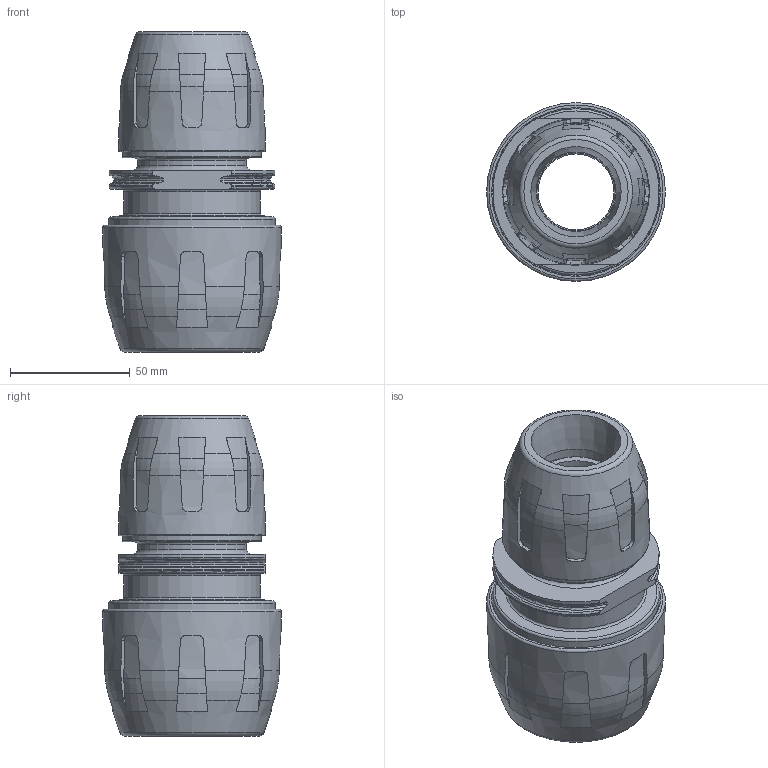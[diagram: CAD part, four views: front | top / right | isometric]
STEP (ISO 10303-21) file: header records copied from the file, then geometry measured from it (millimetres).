
FILE_DESCRIPTION( ( 'STEP AP214' ), '1' );
FILE_NAME( ' ', ' ', ( ' ' ), ( ' ' ), 'PSStep 11.0', 'VISI 17.0', ' ' );
FILE_SCHEMA( ( 'AUTOMOTIVE_DESIGN { 1 0 10303 214 1 1 1 1 }' ) );
Length unit declared in the file: millimetre
Products named in the file (3): 1; 2; 3
Bounding box: 74.56 x 74.56 x 133.77 mm (x, y, z)
Volume: 270422.3 mm3; surface area: 82085.6 mm2
Topology: 3 solids, 3 shells, 436 faces, 1222 edges, 808 vertices
Faces by surface type: plane 216, cone 96, cylinder 60, torus 32, bspline 32
Full cylindrical faces by diameter (mm): 31.7 x1, 32.7 x1, 33.44 x1, 40.7 x1, 40.9 x1, 45.5 x1, 47.2 x1, 48.202 x2, 48.693 x1, 51.2 x1, 52 x1, 57 x1, 58 x1, 58.6 x1, 58.9 x1, 59.8 x2, 64.1 x1, 65.4 x1, 69.4 x1, 70.4 x1
Entity records: 18994 total; most frequent: CARTESIAN_POINT 5055, ORIENTED_EDGE 2294, DIRECTION 2012, EDGE_CURVE 1147, AXIS2_PLACEMENT_3D 870, VERTEX_POINT 789, EDGE_LOOP 514, FACE_OUTER_BOUND 480
